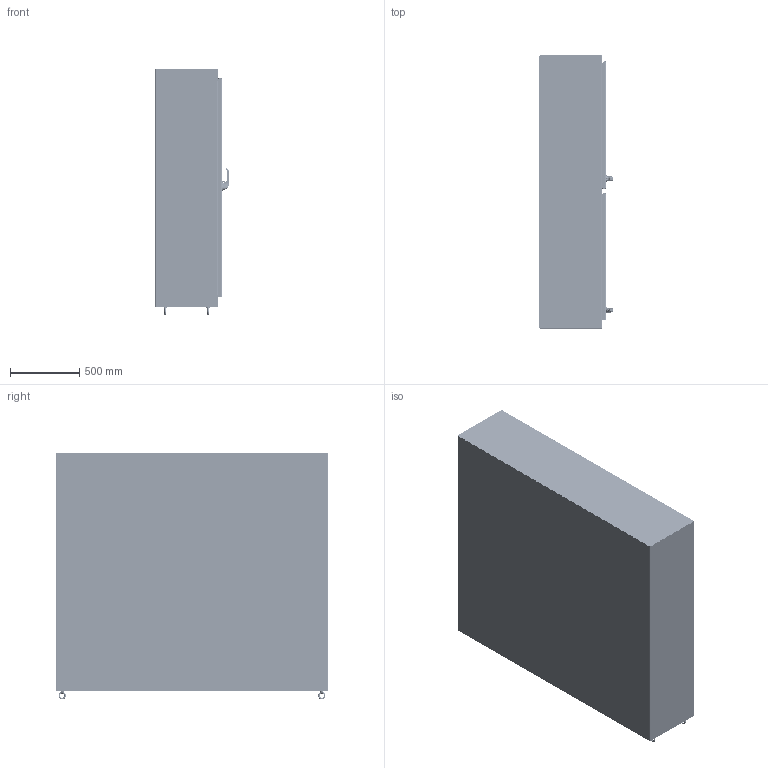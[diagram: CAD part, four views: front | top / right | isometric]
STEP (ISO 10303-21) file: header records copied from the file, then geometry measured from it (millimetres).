
FILE_DESCRIPTION((''),'2;1');
FILE_NAME('MODEL-462_ASM','2023-09-18T14:20:53',('mikek'),('SAGINAW CONTROL & ENGINEERING'),'CREO PARAMETRIC BY PTC INC, 2021284','CREO PARAMETRIC BY PTC INC, 2021284','');
FILE_SCHEMA(('AUTOMOTIVE_DESIGN { 1 0 10303 214 1 1 1 1 }'));
Length unit declared in the file: inch
Products named in the file (113): MODEL-462-L-SD; MODEL-462-TP; MODEL-462-R-SD; MODEL-462-BTM; MODEL-462-RH-DR; 100837; 111267; 100882; 100953_HANDLE; 100953_HANDLE_INSERT; 100953_SHAFT_CAM; 100953_ADAPTER_CAM; 100953_NUT_CAM; 100953_BASE; 100953_O-RING; 100953_WASHER_SEALING; 100953_NUT_MOUNTING_LARGE; 100953_NUT_MOUNTING_SMALL; 100953_SCREW_SMALL; 100953_INSERT; 100953_PADLOCK_CATCH; 100953_ASM; 102237; 100030; 102237_ASM; MODEL-462-ROD-RH-UPR; 128146; 128145; 128144; 102482; MODEL-462-ROD-RH-UPR_ASM; 128143; 112504; MODEL-462-ROD-RH-LWR; MODEL-462-ROD-RH-LWR_ASM; MODEL-462-PR-GSKT-RH; 128258; 128258_ASM; 126395; 102483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
Assembly tree (254 placements, depth 4):
  MODEL-462_ASM
    MODEL-462-L-SD
    MODEL-462-TP
    MODEL-462-R-SD
    MODEL-462-BTM
    MODEL-462-RH-DOOR-ASSY_ASM
      MODEL-462-RH-DR
      100837  x7
      111267
      100882  x12
      100953_ASM
        100953_HANDLE
        100953_HANDLE_INSERT
        100953_SHAFT_CAM
        100953_ADAPTER_CAM
        100953_NUT_CAM
        100953_BASE
        100953_O-RING
        100953_WASHER_SEALING
        100953_NUT_MOUNTING_LARGE
        100953_NUT_MOUNTING_SMALL
        100953_SCREW_SMALL
        100953_INSERT
        100953_PADLOCK_CATCH
      102237_ASM
        102237
        100030  x2
      MODEL-462-ROD-RH-UPR_ASM
        MODEL-462-ROD-RH-UPR
        128146
        128145
        128144
        102482  x2
      128143  x2
      112504  x2
      MODEL-462-ROD-RH-LWR_ASM
        MODEL-462-ROD-RH-LWR
        128146
        128145
        128144
        102482  x2
      MODEL-462-PR-GSKT-RH
      128258_ASM  x4
        128258
      126395  x4
      102483  x4
      101383_ASM  x4
        101383
        101383-STUD
      101221  x4
    MODEL-462-LH-DOOR-ASSY_ASM
      MODEL-462-LH-DR
      100837  x3
      100957_ASM
        100957_HANDLE
        100957_HANDLE_INSERT
        100957_SHAFT_CAM
        100957_ADAPTER_CAM
        100957_NUT_CAM
        100957_BASE
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Bounding box: 534.57 x 1974.85 x 1788.36 mm (x, y, z)
Volume: 41158665.3 mm3; surface area: 29574763.8 mm2
Topology: 286 solids, 286 shells, 24035 faces, 61570 edges, 38166 vertices
Faces by surface type: plane 8312, cylinder 6640, bspline 4983, torus 1763, cone 1300, sphere 716, extrusion 321
Entity records: 594333 total; most frequent: CARTESIAN_POINT 244623, ORIENTED_EDGE 52536, DIRECTION 49661, PRESENTATION_STYLE_ASSIGNMENT 27366, STYLED_ITEM 27079, CURVE_STYLE 26268, EDGE_CURVE 26268, AXIS2_PLACEMENT_3D 18554
